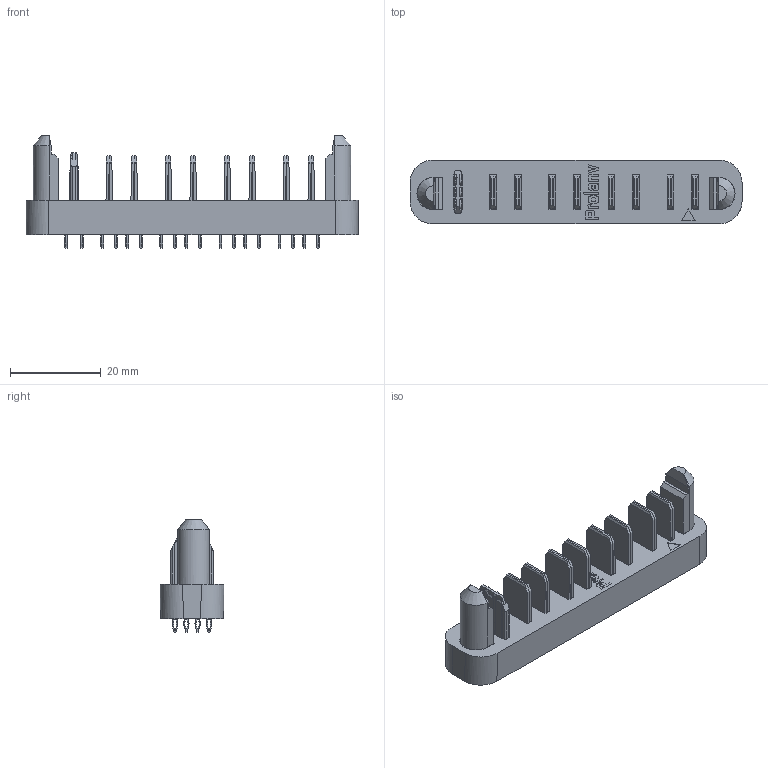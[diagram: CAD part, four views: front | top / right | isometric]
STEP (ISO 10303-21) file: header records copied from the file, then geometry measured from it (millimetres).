
FILE_DESCRIPTION(/* description */ (''),/* implementation_level */ '2;1');
FILE_NAME(/* name */ 'PDC1920F0003石头档(A1)20250508.stp',/* time_stamp */ '2025-05-08T15:36:10+08:00',/* author */ (''),/* organization */ (''),/* preprocessor_version */ 'ST-DEVELOPER v16.7',/* originating_system */ 'SIEMENS PLM Software NX 1946',/* authorisation */ '');
FILE_SCHEMA (('AUTOMOTIVE_DESIGN { 1 0 10303 214 3 1 1 1 }'));
Length unit declared in the file: millimetre
Products named in the file (1): PDC01＋02信号优化Ｘ0
Bounding box: 73.14 x 14.05 x 24.88 mm (x, y, z)
Volume: 8670.4 mm3; surface area: 8930.6 mm2
Topology: 1 solids, 1 shells, 4263 faces, 10863 edges, 6640 vertices
Faces by surface type: cylinder 1694, plane 1378, torus 1152, extrusion 31, cone 6, bspline 2
Entity records: 130278 total; most frequent: DIRECTION 24369, CARTESIAN_POINT 23572, ORIENTED_EDGE 21726, EDGE_CURVE 10863, AXIS2_PLACEMENT_3D 9657, VERTEX_POINT 6640, VECTOR 5055, LINE 5024
